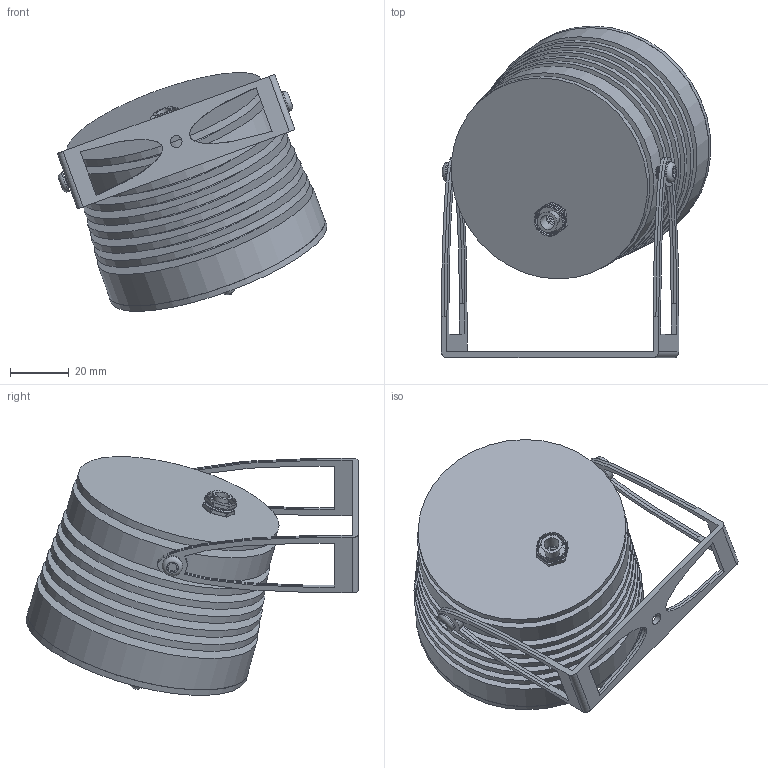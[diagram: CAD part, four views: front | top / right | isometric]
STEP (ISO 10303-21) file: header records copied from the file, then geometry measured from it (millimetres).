
FILE_DESCRIPTION(/* description */ (''),/* implementation_level */ '2;1');
FILE_NAME(/* name */ 'C:/Users/Utente/Desktop/crystal classic mini.step',/* time_stamp */ '2022-01-07T09:08:57+01:00',/* author */ (''),/* organization */ (''),/* preprocessor_version */ 'ST-DEVELOPER v18.1',/* originating_system */ 'Autodesk Translation Framework v10.10.0.1391',/* authorisation */ '');
FILE_SCHEMA (('AUTOMOTIVE_DESIGN { 1 0 10303 214 3 1 1 }'));
Products named in the file (1): crystal classic mini pieno
Bounding box: 91.39 x 112.69 x 80.96 mm (x, y, z)
Volume: 153999.6 mm3; surface area: 60173.9 mm2
Topology: 2 solids, 6 shells, 694 faces, 2016 edges, 1337 vertices
Faces by surface type: cylinder 499, plane 127, bspline 61, cone 5, torus 2
Full cylindrical faces by diameter (mm): 2.356 x12, 2.529 x20, 3.086 x22, 3.356 x13, 3.529 x23, 3.927 x27, 4 x1, 4.086 x14, 5 x1, 7 x2, 8.526 x10, 10.127 x1, 10.198 x11, 49.2 x1, 50.8 x1, 55.6 x1, 56.6 x1, 57.6 x1, 58.6 x1, 59.6 x1, 60.6 x1, 61.6 x1, 70.6 x1, 71.6 x1, 72.6 x1, 73.6 x1, 74.6 x1, 75.6 x1, 76.6 x1, 77.6 x1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
Entity records: 55806 total; most frequent: CARTESIAN_POINT 39652, ORIENTED_EDGE 4032, DIRECTION 2333, EDGE_CURVE 2016, VERTEX_POINT 1337, B_SPLINE_CURVE_WITH_KNOTS 1138, AXIS2_PLACEMENT_3D 825, EDGE_LOOP 741
